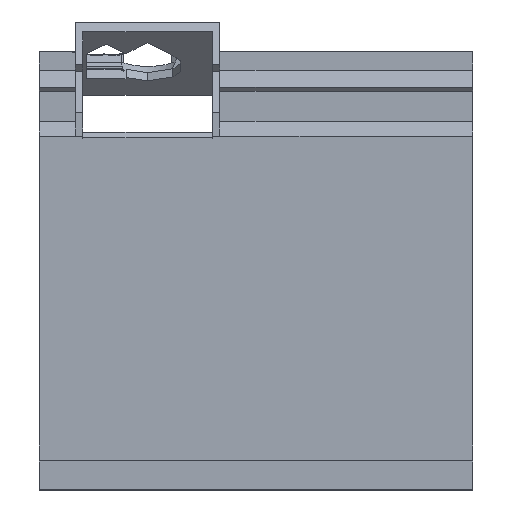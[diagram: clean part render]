
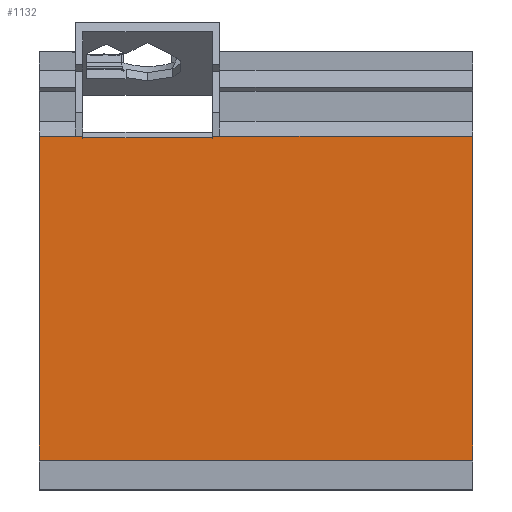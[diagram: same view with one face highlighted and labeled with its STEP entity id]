
A CAD part, top view. The second image highlights one B-rep face of the part: STEP entity #1132.
In plain terms, the highlighted planar face has unit normal (0, 0, 1).
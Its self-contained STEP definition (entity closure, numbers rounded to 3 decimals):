
#32 = PLANE('',#33);
#33 = AXIS2_PLACEMENT_3D('',#34,#35,#36);
#34 = CARTESIAN_POINT('',(-116.,-190.,0.));
#35 = DIRECTION('',(1.,0.,-0.));
#36 = DIRECTION('',(0.,0.,1.));
#704 = VERTEX_POINT('',#705);
#705 = CARTESIAN_POINT('',(-116.,-158.5,34.));
#718 = PLANE('',#719);
#719 = AXIS2_PLACEMENT_3D('',#720,#721,#722);
#720 = CARTESIAN_POINT('',(-174.5,-158.5,3.));
#721 = DIRECTION('',(0.,1.,0.));
#722 = DIRECTION('',(1.,0.,0.));
#729 = EDGE_CURVE('',#704,#730,#732,.T.);
#730 = VERTEX_POINT('',#731);
#731 = CARTESIAN_POINT('',(-116.,-176.5,34.));
#732 = SURFACE_CURVE('',#733,(#737,#743),.PCURVE_S1.);
#733 = LINE('',#734,#735);
#734 = CARTESIAN_POINT('',(-116.,-96.459,34.));
#735 = VECTOR('',#736,1.);
#736 = DIRECTION('',(0.,-1.,0.));
#737 = PCURVE('',#32,#738);
#738 = DEFINITIONAL_REPRESENTATION('',(#739),#742);
#739 = B_SPLINE_CURVE_WITH_KNOTS('',1,(#740,#741),.UNSPECIFIED.,.F.,.F.,
  (2,2),(62.041,80.041),.PIECEWISE_BEZIER_KNOTS.);
#740 = CARTESIAN_POINT('',(34.,-31.5));
#741 = CARTESIAN_POINT('',(34.,-13.5));
#742 = ( GEOMETRIC_REPRESENTATION_CONTEXT(2) 
PARAMETRIC_REPRESENTATION_CONTEXT() REPRESENTATION_CONTEXT('2D SPACE',''
  ) );
#743 = PCURVE('',#744,#749);
#744 = PLANE('',#745);
#745 = AXIS2_PLACEMENT_3D('',#746,#747,#748);
#746 = CARTESIAN_POINT('',(0.,-2.917,34.));
#747 = DIRECTION('',(0.,0.,1.));
#748 = DIRECTION('',(1.,0.,-0.));
#749 = DEFINITIONAL_REPRESENTATION('',(#750),#753);
#750 = B_SPLINE_CURVE_WITH_KNOTS('',1,(#751,#752),.UNSPECIFIED.,.F.,.F.,
  (2,2),(62.041,80.041),.PIECEWISE_BEZIER_KNOTS.);
#751 = CARTESIAN_POINT('',(-116.,-155.583));
#752 = CARTESIAN_POINT('',(-116.,-173.583));
#753 = ( GEOMETRIC_REPRESENTATION_CONTEXT(2) 
PARAMETRIC_REPRESENTATION_CONTEXT() REPRESENTATION_CONTEXT('2D SPACE',''
  ) );
#770 = PLANE('',#771);
#771 = AXIS2_PLACEMENT_3D('',#772,#773,#774);
#772 = CARTESIAN_POINT('',(-192.5,-176.5,31.));
#773 = DIRECTION('',(0.,1.,0.));
#774 = DIRECTION('',(1.,0.,0.));
#885 = PLANE('',#886);
#886 = AXIS2_PLACEMENT_3D('',#887,#888,#889);
#887 = CARTESIAN_POINT('',(-92.,-190.,0.));
#888 = DIRECTION('',(1.,0.,-0.));
#889 = DIRECTION('',(0.,0.,1.));
#1090 = VERTEX_POINT('',#1091);
#1091 = CARTESIAN_POINT('',(-92.,-176.5,34.));
#1110 = EDGE_CURVE('',#1090,#730,#1111,.T.);
#1111 = SURFACE_CURVE('',#1112,(#1116,#1123),.PCURVE_S1.);
#1112 = LINE('',#1113,#1114);
#1113 = CARTESIAN_POINT('',(-96.25,-176.5,34.));
#1114 = VECTOR('',#1115,1.);
#1115 = DIRECTION('',(-1.,0.,0.));
#1116 = PCURVE('',#770,#1117);
#1117 = DEFINITIONAL_REPRESENTATION('',(#1118),#1122);
#1118 = LINE('',#1119,#1120);
#1119 = CARTESIAN_POINT('',(96.25,-3.));
#1120 = VECTOR('',#1121,1.);
#1121 = DIRECTION('',(-1.,0.));
#1122 = ( GEOMETRIC_REPRESENTATION_CONTEXT(2) 
PARAMETRIC_REPRESENTATION_CONTEXT() REPRESENTATION_CONTEXT('2D SPACE',''
  ) );
#1123 = PCURVE('',#744,#1124);
#1124 = DEFINITIONAL_REPRESENTATION('',(#1125),#1129);
#1125 = LINE('',#1126,#1127);
#1126 = CARTESIAN_POINT('',(-96.25,-173.583));
#1127 = VECTOR('',#1128,1.);
#1128 = DIRECTION('',(-1.,0.));
#1129 = ( GEOMETRIC_REPRESENTATION_CONTEXT(2) 
PARAMETRIC_REPRESENTATION_CONTEXT() REPRESENTATION_CONTEXT('2D SPACE',''
  ) );
#1132 = ADVANCED_FACE('',(#1133),#744,.T.);
#1133 = FACE_BOUND('',#1134,.T.);
#1134 = EDGE_LOOP('',(#1135,#1136,#1157,#1185,#1213,#1241,#1269,#1290));
#1135 = ORIENTED_EDGE('',*,*,#1110,.F.);
#1136 = ORIENTED_EDGE('',*,*,#1137,.F.);
#1137 = EDGE_CURVE('',#1138,#1090,#1140,.T.);
#1138 = VERTEX_POINT('',#1139);
#1139 = CARTESIAN_POINT('',(-92.,-158.5,34.));
#1140 = SURFACE_CURVE('',#1141,(#1145,#1151),.PCURVE_S1.);
#1141 = LINE('',#1142,#1143);
#1142 = CARTESIAN_POINT('',(-92.,-96.459,34.));
#1143 = VECTOR('',#1144,1.);
#1144 = DIRECTION('',(0.,-1.,0.));
#1145 = PCURVE('',#744,#1146);
#1146 = DEFINITIONAL_REPRESENTATION('',(#1147),#1150);
#1147 = B_SPLINE_CURVE_WITH_KNOTS('',1,(#1148,#1149),.UNSPECIFIED.,.F.,
  .F.,(2,2),(62.041,80.041),.PIECEWISE_BEZIER_KNOTS.);
#1148 = CARTESIAN_POINT('',(-92.,-155.583));
#1149 = CARTESIAN_POINT('',(-92.,-173.583));
#1150 = ( GEOMETRIC_REPRESENTATION_CONTEXT(2) 
PARAMETRIC_REPRESENTATION_CONTEXT() REPRESENTATION_CONTEXT('2D SPACE',''
  ) );
#1151 = PCURVE('',#885,#1152);
#1152 = DEFINITIONAL_REPRESENTATION('',(#1153),#1156);
#1153 = B_SPLINE_CURVE_WITH_KNOTS('',1,(#1154,#1155),.UNSPECIFIED.,.F.,
  .F.,(2,2),(62.041,80.041),.PIECEWISE_BEZIER_KNOTS.);
#1154 = CARTESIAN_POINT('',(34.,-31.5));
#1155 = CARTESIAN_POINT('',(34.,-13.5));
#1156 = ( GEOMETRIC_REPRESENTATION_CONTEXT(2) 
PARAMETRIC_REPRESENTATION_CONTEXT() REPRESENTATION_CONTEXT('2D SPACE',''
  ) );
#1157 = ORIENTED_EDGE('',*,*,#1158,.T.);
#1158 = EDGE_CURVE('',#1138,#1159,#1161,.T.);
#1159 = VERTEX_POINT('',#1160);
#1160 = CARTESIAN_POINT('',(-106.4,-158.5,34.));
#1161 = SURFACE_CURVE('',#1162,(#1166,#1173),.PCURVE_S1.);
#1162 = LINE('',#1163,#1164);
#1163 = CARTESIAN_POINT('',(-87.25,-158.5,34.));
#1164 = VECTOR('',#1165,1.);
#1165 = DIRECTION('',(-1.,0.,0.));
#1166 = PCURVE('',#744,#1167);
#1167 = DEFINITIONAL_REPRESENTATION('',(#1168),#1172);
#1168 = LINE('',#1169,#1170);
#1169 = CARTESIAN_POINT('',(-87.25,-155.583));
#1170 = VECTOR('',#1171,1.);
#1171 = DIRECTION('',(-1.,0.));
#1172 = ( GEOMETRIC_REPRESENTATION_CONTEXT(2) 
PARAMETRIC_REPRESENTATION_CONTEXT() REPRESENTATION_CONTEXT('2D SPACE',''
  ) );
#1173 = PCURVE('',#1174,#1179);
#1174 = PLANE('',#1175);
#1175 = AXIS2_PLACEMENT_3D('',#1176,#1177,#1178);
#1176 = CARTESIAN_POINT('',(-174.5,-158.5,3.));
#1177 = DIRECTION('',(0.,1.,0.));
#1178 = DIRECTION('',(1.,0.,0.));
#1179 = DEFINITIONAL_REPRESENTATION('',(#1180),#1184);
#1180 = LINE('',#1181,#1182);
#1181 = CARTESIAN_POINT('',(87.25,-31.));
#1182 = VECTOR('',#1183,1.);
#1183 = DIRECTION('',(-1.,0.));
#1184 = ( GEOMETRIC_REPRESENTATION_CONTEXT(2) 
PARAMETRIC_REPRESENTATION_CONTEXT() REPRESENTATION_CONTEXT('2D SPACE',''
  ) );
#1185 = ORIENTED_EDGE('',*,*,#1186,.F.);
#1186 = EDGE_CURVE('',#1187,#1159,#1189,.T.);
#1187 = VERTEX_POINT('',#1188);
#1188 = CARTESIAN_POINT('',(-106.4,-158.597,34.));
#1189 = SURFACE_CURVE('',#1190,(#1194,#1201),.PCURVE_S1.);
#1190 = LINE('',#1191,#1192);
#1191 = CARTESIAN_POINT('',(-106.4,-78.067,34.));
#1192 = VECTOR('',#1193,1.);
#1193 = DIRECTION('',(0.,1.,0.));
#1194 = PCURVE('',#744,#1195);
#1195 = DEFINITIONAL_REPRESENTATION('',(#1196),#1200);
#1196 = LINE('',#1197,#1198);
#1197 = CARTESIAN_POINT('',(-106.4,-75.15));
#1198 = VECTOR('',#1199,1.);
#1199 = DIRECTION('',(0.,1.));
#1200 = ( GEOMETRIC_REPRESENTATION_CONTEXT(2) 
PARAMETRIC_REPRESENTATION_CONTEXT() REPRESENTATION_CONTEXT('2D SPACE',''
  ) );
#1201 = PCURVE('',#1202,#1207);
#1202 = PLANE('',#1203);
#1203 = AXIS2_PLACEMENT_3D('',#1204,#1205,#1206);
#1204 = CARTESIAN_POINT('',(-106.4,-153.217,45.539));
#1205 = DIRECTION('',(1.,0.,0.));
#1206 = DIRECTION('',(0.,0.906,-0.423));
#1207 = DEFINITIONAL_REPRESENTATION('',(#1208),#1212);
#1208 = LINE('',#1209,#1210);
#1209 = CARTESIAN_POINT('',(72.985,21.302));
#1210 = VECTOR('',#1211,1.);
#1211 = DIRECTION('',(0.906,0.423));
#1212 = ( GEOMETRIC_REPRESENTATION_CONTEXT(2) 
PARAMETRIC_REPRESENTATION_CONTEXT() REPRESENTATION_CONTEXT('2D SPACE',''
  ) );
#1213 = ORIENTED_EDGE('',*,*,#1214,.T.);
#1214 = EDGE_CURVE('',#1187,#1215,#1217,.T.);
#1215 = VERTEX_POINT('',#1216);
#1216 = CARTESIAN_POINT('',(-113.6,-158.597,34.));
#1217 = SURFACE_CURVE('',#1218,(#1222,#1229),.PCURVE_S1.);
#1218 = LINE('',#1219,#1220);
#1219 = CARTESIAN_POINT('',(-56.8,-158.597,34.));
#1220 = VECTOR('',#1221,1.);
#1221 = DIRECTION('',(-1.,0.,0.));
#1222 = PCURVE('',#744,#1223);
#1223 = DEFINITIONAL_REPRESENTATION('',(#1224),#1228);
#1224 = LINE('',#1225,#1226);
#1225 = CARTESIAN_POINT('',(-56.8,-155.68));
#1226 = VECTOR('',#1227,1.);
#1227 = DIRECTION('',(-1.,0.));
#1228 = ( GEOMETRIC_REPRESENTATION_CONTEXT(2) 
PARAMETRIC_REPRESENTATION_CONTEXT() REPRESENTATION_CONTEXT('2D SPACE',''
  ) );
#1229 = PCURVE('',#1230,#1235);
#1230 = PLANE('',#1231);
#1231 = AXIS2_PLACEMENT_3D('',#1232,#1233,#1234);
#1232 = CARTESIAN_POINT('',(-113.6,-153.217,45.539));
#1233 = DIRECTION('',(0.,0.906,-0.423));
#1234 = DIRECTION('',(1.,0.,0.));
#1235 = DEFINITIONAL_REPRESENTATION('',(#1236),#1240);
#1236 = LINE('',#1237,#1238);
#1237 = CARTESIAN_POINT('',(56.8,12.731));
#1238 = VECTOR('',#1239,1.);
#1239 = DIRECTION('',(-1.,-0.));
#1240 = ( GEOMETRIC_REPRESENTATION_CONTEXT(2) 
PARAMETRIC_REPRESENTATION_CONTEXT() REPRESENTATION_CONTEXT('2D SPACE',''
  ) );
#1241 = ORIENTED_EDGE('',*,*,#1242,.T.);
#1242 = EDGE_CURVE('',#1215,#1243,#1245,.T.);
#1243 = VERTEX_POINT('',#1244);
#1244 = CARTESIAN_POINT('',(-113.6,-158.5,34.));
#1245 = SURFACE_CURVE('',#1246,(#1250,#1257),.PCURVE_S1.);
#1246 = LINE('',#1247,#1248);
#1247 = CARTESIAN_POINT('',(-113.6,-78.067,34.));
#1248 = VECTOR('',#1249,1.);
#1249 = DIRECTION('',(0.,1.,0.));
#1250 = PCURVE('',#744,#1251);
#1251 = DEFINITIONAL_REPRESENTATION('',(#1252),#1256);
#1252 = LINE('',#1253,#1254);
#1253 = CARTESIAN_POINT('',(-113.6,-75.15));
#1254 = VECTOR('',#1255,1.);
#1255 = DIRECTION('',(0.,1.));
#1256 = ( GEOMETRIC_REPRESENTATION_CONTEXT(2) 
PARAMETRIC_REPRESENTATION_CONTEXT() REPRESENTATION_CONTEXT('2D SPACE',''
  ) );
#1257 = PCURVE('',#1258,#1263);
#1258 = PLANE('',#1259);
#1259 = AXIS2_PLACEMENT_3D('',#1260,#1261,#1262);
#1260 = CARTESIAN_POINT('',(-113.6,-153.217,45.539));
#1261 = DIRECTION('',(1.,0.,0.));
#1262 = DIRECTION('',(0.,0.906,-0.423));
#1263 = DEFINITIONAL_REPRESENTATION('',(#1264),#1268);
#1264 = LINE('',#1265,#1266);
#1265 = CARTESIAN_POINT('',(72.985,21.302));
#1266 = VECTOR('',#1267,1.);
#1267 = DIRECTION('',(0.906,0.423));
#1268 = ( GEOMETRIC_REPRESENTATION_CONTEXT(2) 
PARAMETRIC_REPRESENTATION_CONTEXT() REPRESENTATION_CONTEXT('2D SPACE',''
  ) );
#1269 = ORIENTED_EDGE('',*,*,#1270,.T.);
#1270 = EDGE_CURVE('',#1243,#704,#1271,.T.);
#1271 = SURFACE_CURVE('',#1272,(#1276,#1283),.PCURVE_S1.);
#1272 = LINE('',#1273,#1274);
#1273 = CARTESIAN_POINT('',(-87.25,-158.5,34.));
#1274 = VECTOR('',#1275,1.);
#1275 = DIRECTION('',(-1.,0.,0.));
#1276 = PCURVE('',#744,#1277);
#1277 = DEFINITIONAL_REPRESENTATION('',(#1278),#1282);
#1278 = LINE('',#1279,#1280);
#1279 = CARTESIAN_POINT('',(-87.25,-155.583));
#1280 = VECTOR('',#1281,1.);
#1281 = DIRECTION('',(-1.,0.));
#1282 = ( GEOMETRIC_REPRESENTATION_CONTEXT(2) 
PARAMETRIC_REPRESENTATION_CONTEXT() REPRESENTATION_CONTEXT('2D SPACE',''
  ) );
#1283 = PCURVE('',#718,#1284);
#1284 = DEFINITIONAL_REPRESENTATION('',(#1285),#1289);
#1285 = LINE('',#1286,#1287);
#1286 = CARTESIAN_POINT('',(87.25,-31.));
#1287 = VECTOR('',#1288,1.);
#1288 = DIRECTION('',(-1.,0.));
#1289 = ( GEOMETRIC_REPRESENTATION_CONTEXT(2) 
PARAMETRIC_REPRESENTATION_CONTEXT() REPRESENTATION_CONTEXT('2D SPACE',''
  ) );
#1290 = ORIENTED_EDGE('',*,*,#729,.T.);
